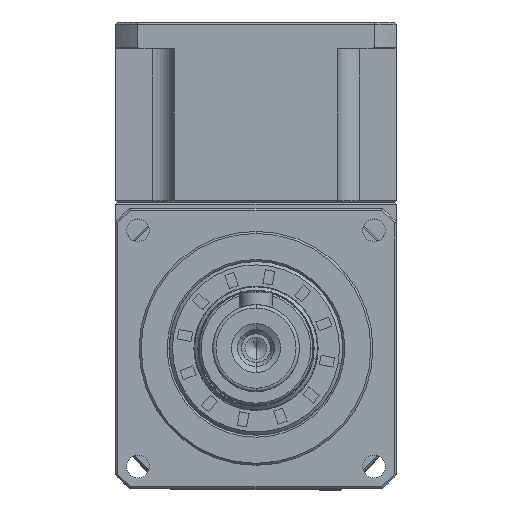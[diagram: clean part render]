
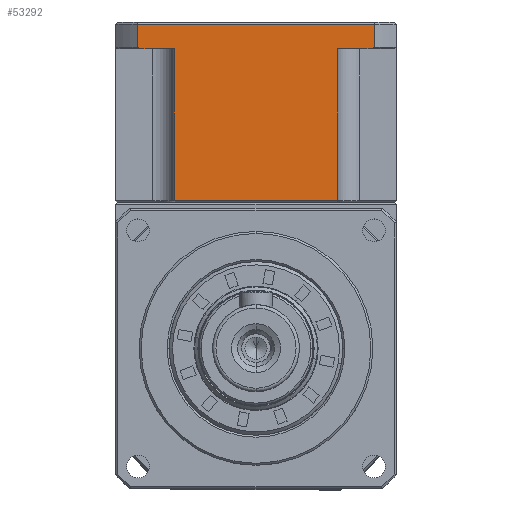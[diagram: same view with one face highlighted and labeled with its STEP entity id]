
A CAD part, top view. The second image highlights one B-rep face of the part: STEP entity #53292.
In plain terms, the highlighted planar face has unit normal (0, 0, 1).
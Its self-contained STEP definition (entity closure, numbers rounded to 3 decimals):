
#1130 = EDGE_CURVE ( 'NONE', #13523, #2505, #68449, .T. ) ;
#1725 = VECTOR ( 'NONE', #20475, 1000. ) ;
#2505 = VERTEX_POINT ( 'NONE', #46254 ) ;
#2583 = CARTESIAN_POINT ( 'NONE',  ( 36.987, 95.047, 8.699 ) ) ;
#5705 = VECTOR ( 'NONE', #76158, 1000. ) ;
#6330 = CARTESIAN_POINT ( 'NONE',  ( 72.498, 95.047, 8.699 ) ) ;
#6772 = ORIENTED_EDGE ( 'NONE', *, *, #68359, .F. ) ;
#6933 = VECTOR ( 'NONE', #71875, 1000. ) ;
#7690 = LINE ( 'NONE', #18277, #5705 ) ;
#7965 = VERTEX_POINT ( 'NONE', #48215 ) ;
#11065 = CARTESIAN_POINT ( 'NONE',  ( 42.493, 71.797, 8.699 ) ) ;
#11769 = CARTESIAN_POINT ( 'NONE',  ( 36.987, 95.047, 8.699 ) ) ;
#13523 = VERTEX_POINT ( 'NONE', #60484 ) ;
#13694 = CARTESIAN_POINT ( 'NONE',  ( 42.493, 94.797, 8.699 ) ) ;
#14316 = LINE ( 'NONE', #61412, #16305 ) ;
#15213 = EDGE_CURVE ( 'NONE', #2505, #27634, #58165, .T. ) ;
#15595 = ORIENTED_EDGE ( 'NONE', *, *, #39641, .T. ) ;
#16247 = EDGE_CURVE ( 'NONE', #7965, #53181, #68046, .T. ) ;
#16305 = VECTOR ( 'NONE', #16423, 1000. ) ;
#16423 = DIRECTION ( 'NONE',  ( 1., 0., 0. ) ) ;
#16807 = CARTESIAN_POINT ( 'NONE',  ( 36.987, 51.633, 8.699 ) ) ;
#17029 = CARTESIAN_POINT ( 'NONE',  ( 75.743, 71.797, 8.699 ) ) ;
#17879 = CARTESIAN_POINT ( 'NONE',  ( 72.368, 94.963, 8.699 ) ) ;
#18277 = CARTESIAN_POINT ( 'NONE',  ( 75.743, 94.797, 8.699 ) ) ;
#19435 = CARTESIAN_POINT ( 'NONE',  ( 72.108, 94.797, 8.699 ) ) ;
#20326 = EDGE_CURVE ( 'NONE', #74838, #13523, #14316, .T. ) ;
#20475 = DIRECTION ( 'NONE',  ( 1., 0., 0. ) ) ;
#21558 = VERTEX_POINT ( 'NONE', #13694 ) ;
#23526 = DIRECTION ( 'NONE',  ( -1., 0., 0. ) ) ;
#24672 = CARTESIAN_POINT ( 'NONE',  ( 37.117, 94.963, 8.699 ) ) ;
#27634 = VERTEX_POINT ( 'NONE', #19435 ) ;
#28363 = EDGE_CURVE ( 'NONE', #40672, #53181, #58849, .T. ) ;
#28561 = ORIENTED_EDGE ( 'NONE', *, *, #36363, .T. ) ;
#28614 = CARTESIAN_POINT ( 'NONE',  ( 72.498, 98.497, 8.699 ) ) ;
#30795 = VECTOR ( 'NONE', #43367, 1000. ) ;
#31141 = CARTESIAN_POINT ( 'NONE',  ( 37.377, 94.797, 8.699 ) ) ;
#32033 = EDGE_CURVE ( 'NONE', #60110, #67855, #76600, .T. ) ;
#33341 = ORIENTED_EDGE ( 'NONE', *, *, #1130, .T. ) ;
#33853 = VECTOR ( 'NONE', #68263, 1000. ) ;
#36183 = PLANE ( 'NONE',  #77509 ) ;
#36363 = EDGE_CURVE ( 'NONE', #21558, #74838, #47882, .T. ) ;
#36571 = CARTESIAN_POINT ( 'NONE',  ( 37.377, 94.797, 8.699 ) ) ;
#36832 = B_SPLINE_CURVE_WITH_KNOTS ( 'NONE', 3,
 ( #56361, #17879, #75739, #37277 ),
 .UNSPECIFIED., .F., .F.,
 ( 4, 4 ),
 ( 0., 0. ),
 .UNSPECIFIED. ) ;
#37277 = CARTESIAN_POINT ( 'NONE',  ( 72.108, 94.797, 8.699 ) ) ;
#39295 = CARTESIAN_POINT ( 'NONE',  ( 75.743, 98.497, 8.699 ) ) ;
#39641 = EDGE_CURVE ( 'NONE', #67855, #21558, #7690, .T. ) ;
#39828 = CARTESIAN_POINT ( 'NONE',  ( 75.743, 94.797, 8.699 ) ) ;
#40672 = VERTEX_POINT ( 'NONE', #6330 ) ;
#41789 = VECTOR ( 'NONE', #60353, 1000. ) ;
#43367 = DIRECTION ( 'NONE',  ( 0., -1., 0. ) ) ;
#46254 = CARTESIAN_POINT ( 'NONE',  ( 66.992, 94.797, 8.699 ) ) ;
#47848 = ORIENTED_EDGE ( 'NONE', *, *, #20326, .T. ) ;
#47882 = LINE ( 'NONE', #11065, #30795 ) ;
#48215 = CARTESIAN_POINT ( 'NONE',  ( 36.987, 98.497, 8.699 ) ) ;
#49771 = CARTESIAN_POINT ( 'NONE',  ( 42.493, 72.097, 8.699 ) ) ;
#50880 = ORIENTED_EDGE ( 'NONE', *, *, #32033, .T. ) ;
#51371 = VECTOR ( 'NONE', #77100, 1000. ) ;
#53181 = VERTEX_POINT ( 'NONE', #28614 ) ;
#53292 = ADVANCED_FACE ( 'NONE', ( #72520 ), #36183, .T. ) ;
#56165 = ORIENTED_EDGE ( 'NONE', *, *, #15213, .T. ) ;
#56361 = CARTESIAN_POINT ( 'NONE',  ( 72.498, 95.047, 8.699 ) ) ;
#57736 = CARTESIAN_POINT ( 'NONE',  ( 66.992, 71.797, 8.699 ) ) ;
#58165 = LINE ( 'NONE', #39828, #6933 ) ;
#58849 = LINE ( 'NONE', #72960, #41789 ) ;
#60110 = VERTEX_POINT ( 'NONE', #2583 ) ;
#60353 = DIRECTION ( 'NONE',  ( 0., 1., 0. ) ) ;
#60484 = CARTESIAN_POINT ( 'NONE',  ( 66.992, 72.097, 8.699 ) ) ;
#61412 = CARTESIAN_POINT ( 'NONE',  ( 75.743, 72.097, 8.699 ) ) ;
#61506 = ORIENTED_EDGE ( 'NONE', *, *, #16247, .F. ) ;
#62046 = DIRECTION ( 'NONE',  ( 0., 0., 1. ) ) ;
#62974 = EDGE_LOOP ( 'NONE', ( #6772, #50880, #15595, #28561, #47848, #33341, #56165, #77250, #72786, #61506 ) ) ;
#67855 = VERTEX_POINT ( 'NONE', #36571 ) ;
#68042 = LINE ( 'NONE', #16807, #33853 ) ;
#68046 = LINE ( 'NONE', #39295, #1725 ) ;
#68263 = DIRECTION ( 'NONE',  ( 0., 1., 0. ) ) ;
#68359 = EDGE_CURVE ( 'NONE', #60110, #7965, #68042, .T. ) ;
#68449 = LINE ( 'NONE', #57736, #51371 ) ;
#69638 = CARTESIAN_POINT ( 'NONE',  ( 37.247, 94.88, 8.699 ) ) ;
#71875 = DIRECTION ( 'NONE',  ( 1., 0., 0. ) ) ;
#72520 = FACE_OUTER_BOUND ( 'NONE', #62974, .T. ) ;
#72786 = ORIENTED_EDGE ( 'NONE', *, *, #28363, .T. ) ;
#72960 = CARTESIAN_POINT ( 'NONE',  ( 72.498, 71.797, 8.699 ) ) ;
#74838 = VERTEX_POINT ( 'NONE', #49771 ) ;
#75739 = CARTESIAN_POINT ( 'NONE',  ( 72.238, 94.88, 8.699 ) ) ;
#76158 = DIRECTION ( 'NONE',  ( 1., 0., 0. ) ) ;
#76600 = B_SPLINE_CURVE_WITH_KNOTS ( 'NONE', 3,
 ( #11769, #24672, #69638, #31141 ),
 .UNSPECIFIED., .F., .F.,
 ( 4, 4 ),
 ( 0., 0. ),
 .UNSPECIFIED. ) ;
#77100 = DIRECTION ( 'NONE',  ( 0., 1., 0. ) ) ;
#77250 = ORIENTED_EDGE ( 'NONE', *, *, #77664, .F. ) ;
#77509 = AXIS2_PLACEMENT_3D ( 'NONE', #17029, #62046, #23526 ) ;
#77664 = EDGE_CURVE ( 'NONE', #40672, #27634, #36832, .T. ) ;
